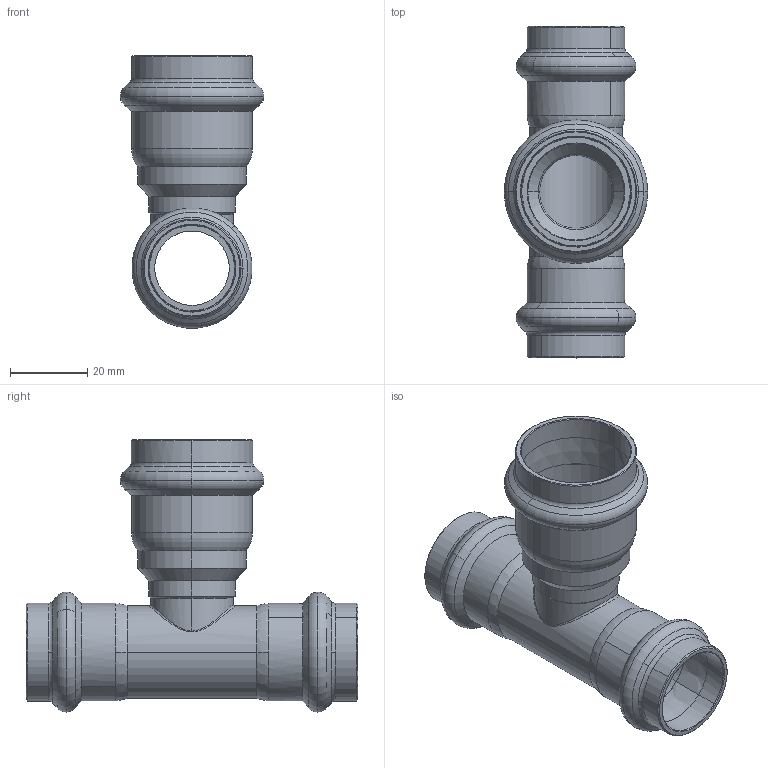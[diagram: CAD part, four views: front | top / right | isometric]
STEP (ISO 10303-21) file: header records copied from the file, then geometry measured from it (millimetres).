
FILE_DESCRIPTION(('CoCreate Modeling STEP Export'),'2;1');
FILE_NAME('8130RVW222822.stp','2013-01-31T14:37:58',(''),(''),'CoCreate Modeling STEP processor for AP214 (Solid Model)','CoCreate Modeling 17.00A 17-Jun-2010 (C) Parametric Technology GmbH','');
FILE_SCHEMA(('AUTOMOTIVE_DESIGN { 1 0 10303 214 1 1 1 1 }'));
Length unit declared in the file: millimetre
Products named in the file (1): 8130RVW222822
Bounding box: 37.2 x 86.01 x 70.54 mm (x, y, z)
Volume: 19552.2 mm3; surface area: 21779.1 mm2
Topology: 1 solids, 1 shells, 137 faces, 349 edges, 221 vertices
Faces by surface type: cylinder 44, torus 44, cone 36, plane 9, bspline 4
Entity records: 7714 total; most frequent: CARTESIAN_POINT 5012, ORIENTED_EDGE 698, DIRECTION 446, EDGE_CURVE 349, VERTEX_POINT 221, AXIS2_PLACEMENT_3D 183, EDGE_LOOP 148, FACE_OUTER_BOUND 137
